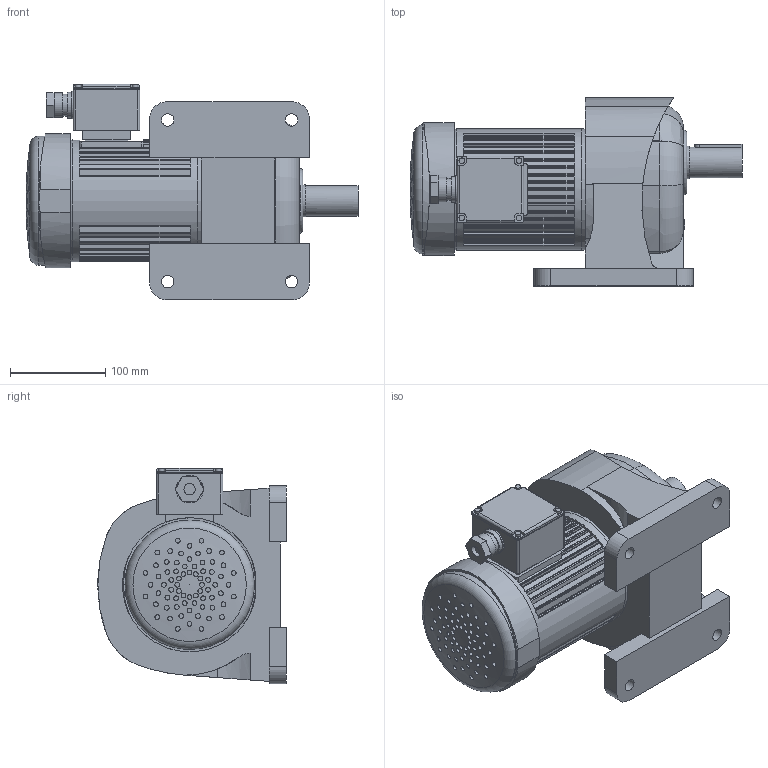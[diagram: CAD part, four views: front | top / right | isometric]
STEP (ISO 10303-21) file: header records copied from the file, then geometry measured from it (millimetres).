
FILE_DESCRIPTION( ( 'STEP AP203' ), ' ' );
FILE_NAME( 'p:/temp/worker_3181/2596_4788/app_54_02016063013513972724531192d056f_000000_00_00_000000/format_0/G3LM-32-100-T040A.stp', '2016-06-30T11:51:43', ( '' ), ( '' ), ' ', 'PARTsolutions', ' ' );
FILE_SCHEMA( ( 'CONFIG_CONTROL_DESIGN' ) );
Length unit declared in the file: millimetre
Products named in the file (7): G3LM-32-100-T040A; _GL32; _SP032G; HI_T040; HI_040M; _A-BOX(aluminum)(T50); _KEY 32
Assembly tree (6 placements, depth 2):
  G3LM-32-100-T040A
    _GL32
    _SP032G
    HI_T040
    HI_040M
    _A-BOX(aluminum)(T50)
    _KEY 32
Bounding box: 349 x 198 x 226.5 mm (x, y, z)
Volume: 6048481.7 mm3; surface area: 414772.1 mm2
Topology: 6 solids, 6 shells, 672 faces, 1684 edges, 1138 vertices
Faces by surface type: plane 336, cylinder 321, torus 12, bspline 2, sphere 1
Full cylindrical faces by diameter (mm): 5 x72, 6 x4, 12 x1, 13 x4, 23 x1, 26 x1, 27 x1, 29 x1, 32 x1, 34 x1, 128 x3, 136 x1
Entity records: 24514 total; most frequent: CARTESIAN_POINT 8703, DIRECTION 3354, ORIENTED_EDGE 3004, EDGE_CURVE 1502, AXIS2_PLACEMENT_3D 1309, VERTEX_POINT 1054, EDGE_LOOP 891, FACE_OUTER_BOUND 765
